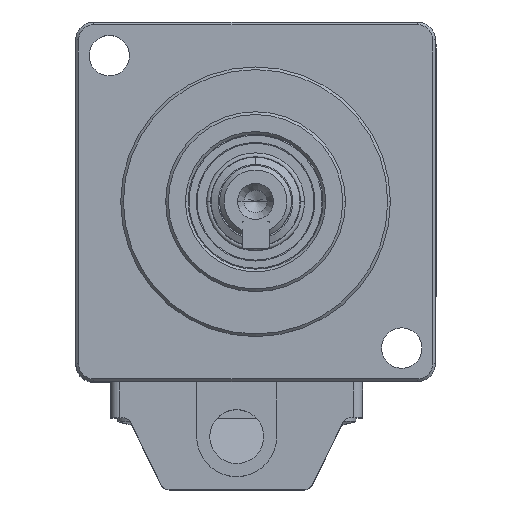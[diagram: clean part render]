
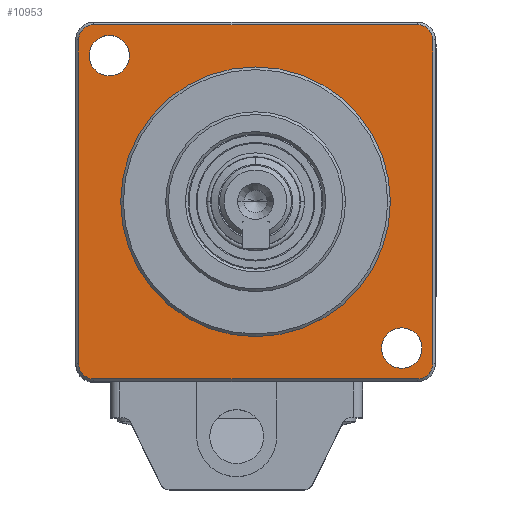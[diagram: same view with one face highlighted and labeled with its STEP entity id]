
A CAD part, top view. The second image highlights one B-rep face of the part: STEP entity #10953.
In plain terms, the highlighted planar face has unit normal (0, 0, 1).
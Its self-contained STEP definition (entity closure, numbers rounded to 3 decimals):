
#2069=DIRECTION('',(0.,-1.,0.));
#2070=VECTOR('',#2069,36.);
#2071=CARTESIAN_POINT('',(-19.7,18.,
-25.));
#2072=LINE('',#2071,#2070);
#2148=CARTESIAN_POINT('',(-18.,18.,-25.));
#2149=DIRECTION('',(0.,0.,-1.));
#2150=DIRECTION('',(-1.,0.,0.));
#2151=AXIS2_PLACEMENT_3D('',#2148,#2149,#2150);
#2153=DIRECTION('',(1.,0.,0.));
#2154=VECTOR('',#2153,36.);
#2155=CARTESIAN_POINT('',(-18.,19.7,
-25.));
#2156=LINE('',#2155,#2154);
#2157=CARTESIAN_POINT('',(18.,18.,-25.));
#2158=DIRECTION('',(0.,0.,-1.));
#2159=DIRECTION('',(0.,1.,0.));
#2160=AXIS2_PLACEMENT_3D('',#2157,#2158,#2159);
#2162=DIRECTION('',(0.,-1.,0.));
#2163=VECTOR('',#2162,36.);
#2164=CARTESIAN_POINT('',(19.7,18.,-25.));
#2165=LINE('',#2164,#2163);
#2166=CARTESIAN_POINT('',(18.,-18.,-25.));
#2167=DIRECTION('',(0.,0.,-1.));
#2168=DIRECTION('',(1.,0.,0.));
#2169=AXIS2_PLACEMENT_3D('',#2166,#2167,#2168);
#2171=DIRECTION('',(-1.,0.,0.));
#2172=VECTOR('',#2171,36.);
#2173=CARTESIAN_POINT('',(18.,-19.7,
-25.));
#2174=LINE('',#2173,#2172);
#2175=CARTESIAN_POINT('',(-18.,-18.,-25.));
#2176=DIRECTION('',(0.,0.,-1.));
#2177=DIRECTION('',(0.,-1.,0.));
#2178=AXIS2_PLACEMENT_3D('',#2175,#2176,#2177);
#2180=CARTESIAN_POINT('',(-16.263,16.263,
-25.));
#2181=DIRECTION('',(0.,0.,1.));
#2182=DIRECTION('',(1.,0.,0.));
#2183=AXIS2_PLACEMENT_3D('',#2180,#2181,#2182);
#2185=CARTESIAN_POINT('',(-16.263,16.263,
-25.));
#2186=DIRECTION('',(0.,0.,1.));
#2187=DIRECTION('',(-1.,0.,0.));
#2188=AXIS2_PLACEMENT_3D('',#2185,#2186,#2187);
#2190=CARTESIAN_POINT('',(16.263,-16.263,
-25.));
#2191=DIRECTION('',(0.,0.,1.));
#2192=DIRECTION('',(1.,0.,0.));
#2193=AXIS2_PLACEMENT_3D('',#2190,#2191,#2192);
#2195=CARTESIAN_POINT('',(16.263,-16.263,
-25.));
#2196=DIRECTION('',(0.,0.,1.));
#2197=DIRECTION('',(-1.,0.,0.));
#2198=AXIS2_PLACEMENT_3D('',#2195,#2196,#2197);
#2200=CARTESIAN_POINT('',(0.,0.,-25.));
#2201=DIRECTION('',(0.,0.,1.));
#2202=DIRECTION('',(-1.,0.,0.));
#2203=AXIS2_PLACEMENT_3D('',#2200,#2201,#2202);
#2205=CARTESIAN_POINT('',(0.,0.,-25.));
#2206=DIRECTION('',(0.,0.,1.));
#2207=DIRECTION('',(1.,0.,0.));
#2208=AXIS2_PLACEMENT_3D('',#2205,#2206,#2207);
#6541=CARTESIAN_POINT('',(18.,-19.7,
-25.));
#6542=VERTEX_POINT('',#6541);
#6543=CARTESIAN_POINT('',(19.7,-18.,
-25.));
#6544=VERTEX_POINT('',#6543);
#6545=CARTESIAN_POINT('',(-18.,-19.7,
-25.));
#6546=VERTEX_POINT('',#6545);
#6549=CARTESIAN_POINT('',(-19.7,-18.,
-25.));
#6550=VERTEX_POINT('',#6549);
#6557=CARTESIAN_POINT('',(-18.,19.7,
-25.));
#6558=CARTESIAN_POINT('',(18.,19.7,-25.));
#6559=VERTEX_POINT('',#6557);
#6560=VERTEX_POINT('',#6558);
#6561=CARTESIAN_POINT('',(19.7,18.,-25.));
#6562=VERTEX_POINT('',#6561);
#6563=CARTESIAN_POINT('',(-19.7,18.,-25.));
#6564=VERTEX_POINT('',#6563);
#6565=CARTESIAN_POINT('',(-14.013,16.263,
-25.));
#6566=CARTESIAN_POINT('',(-18.513,16.263,
-25.));
#6567=VERTEX_POINT('',#6565);
#6568=VERTEX_POINT('',#6566);
#6569=CARTESIAN_POINT('',(18.513,-16.263,
-25.));
#6570=CARTESIAN_POINT('',(14.013,-16.263,
-25.));
#6571=VERTEX_POINT('',#6569);
#6572=VERTEX_POINT('',#6570);
#6573=CARTESIAN_POINT('',(-15.,0.,-25.));
#6574=CARTESIAN_POINT('',(15.,0.,-25.));
#6575=VERTEX_POINT('',#6573);
#6576=VERTEX_POINT('',#6574);
#10917=CARTESIAN_POINT('',(0.,0.,-25.));
#10918=DIRECTION('',(0.,0.,1.));
#10919=DIRECTION('',(1.,0.,0.));
#10920=AXIS2_PLACEMENT_3D('',#10917,#10918,#10919);
#10921=PLANE('',#10920);
#10922=ORIENTED_EDGE('',*,*,#10848,.T.);
#10924=ORIENTED_EDGE('',*,*,#10923,.T.);
#10926=ORIENTED_EDGE('',*,*,#10925,.T.);
#10928=ORIENTED_EDGE('',*,*,#10927,.T.);
#10930=ORIENTED_EDGE('',*,*,#10929,.T.);
#10932=ORIENTED_EDGE('',*,*,#10931,.T.);
#10933=ORIENTED_EDGE('',*,*,#10818,.T.);
#10934=ORIENTED_EDGE('',*,*,#10833,.F.);
#10935=EDGE_LOOP('',(#10922,#10924,#10926,#10928,#10930,#10932,#10933,#10934));
#10936=FACE_OUTER_BOUND('',#10935,.F.);
#10937=ORIENTED_EDGE('',*,*,#10897,.T.);
#10938=ORIENTED_EDGE('',*,*,#10911,.T.);
#10939=EDGE_LOOP('',(#10937,#10938));
#10940=FACE_BOUND('',#10939,.F.);
#10942=ORIENTED_EDGE('',*,*,#10941,.T.);
#10944=ORIENTED_EDGE('',*,*,#10943,.T.);
#10945=EDGE_LOOP('',(#10942,#10944));
#10946=FACE_BOUND('',#10945,.F.);
#10948=ORIENTED_EDGE('',*,*,#10947,.T.);
#10950=ORIENTED_EDGE('',*,*,#10949,.T.);
#10951=EDGE_LOOP('',(#10948,#10950));
#10952=FACE_BOUND('',#10951,.F.);
#10953=ADVANCED_FACE('',(#10936,#10940,#10946,#10952),#10921,.T.);
#2152=CIRCLE('',#2151,1.7);
#2161=CIRCLE('',#2160,1.7);
#2170=CIRCLE('',#2169,1.7);
#2179=CIRCLE('',#2178,1.7);
#2184=CIRCLE('',#2183,2.25);
#2189=CIRCLE('',#2188,2.25);
#2194=CIRCLE('',#2193,2.25);
#2199=CIRCLE('',#2198,2.25);
#2204=CIRCLE('',#2203,15.);
#2209=CIRCLE('',#2208,15.);
#10818=EDGE_CURVE('',#6546,#6550,#2179,.T.);
#10833=EDGE_CURVE('',#6564,#6550,#2072,.T.);
#10848=EDGE_CURVE('',#6564,#6559,#2152,.T.);
#10897=EDGE_CURVE('',#6567,#6568,#2184,.T.);
#10911=EDGE_CURVE('',#6568,#6567,#2189,.T.);
#10923=EDGE_CURVE('',#6559,#6560,#2156,.T.);
#10925=EDGE_CURVE('',#6560,#6562,#2161,.T.);
#10927=EDGE_CURVE('',#6562,#6544,#2165,.T.);
#10929=EDGE_CURVE('',#6544,#6542,#2170,.T.);
#10931=EDGE_CURVE('',#6542,#6546,#2174,.T.);
#10941=EDGE_CURVE('',#6571,#6572,#2194,.T.);
#10943=EDGE_CURVE('',#6572,#6571,#2199,.T.);
#10947=EDGE_CURVE('',#6575,#6576,#2204,.T.);
#10949=EDGE_CURVE('',#6576,#6575,#2209,.T.);
